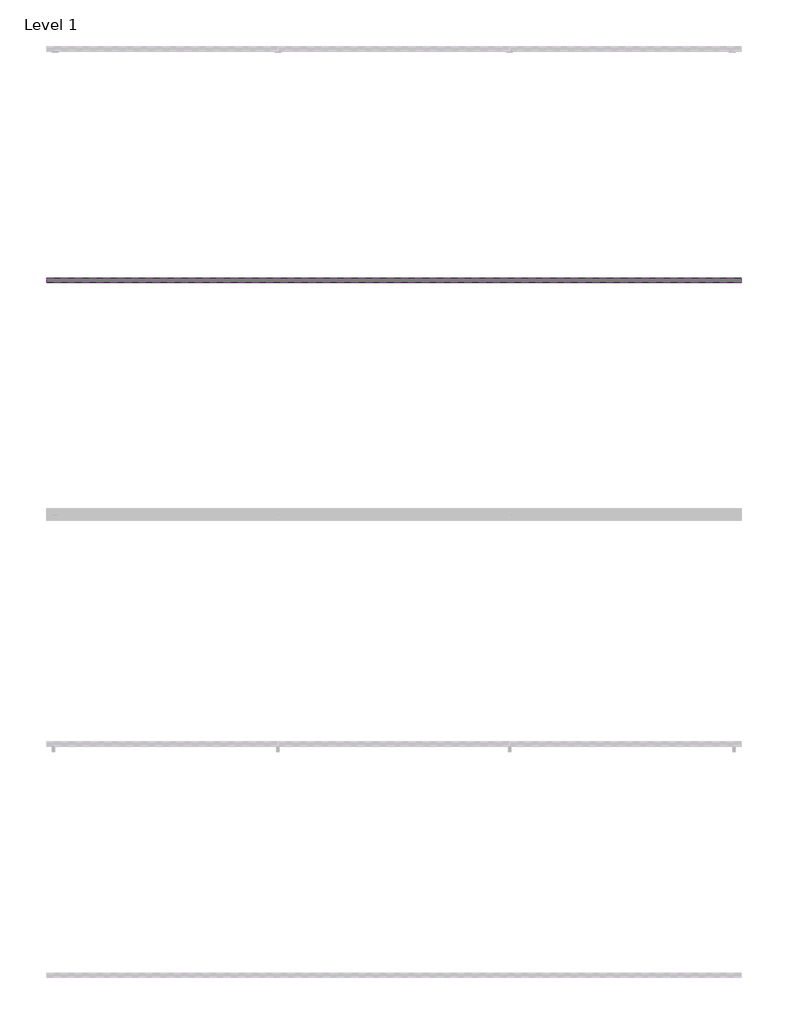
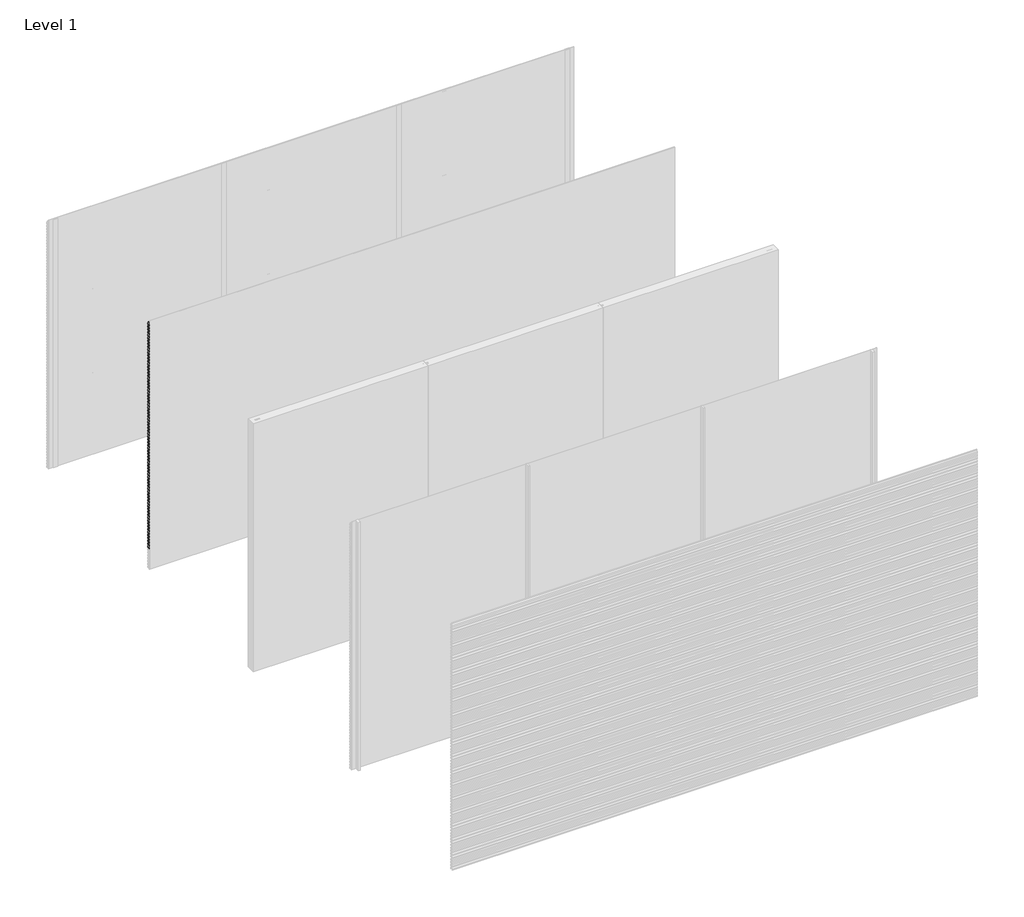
# One storey, part 14 of 17: 81 proxies.
"""IFC4 building model written with IfcOpenShell, lengths in millimetres."""

from ifc_helpers import new_model, si_unit, frame, origin, place, context, project, spatial, polyline, outline, extrude, element, save

model = new_model("IFC4")

# Units and contexts
model_context = context("Model", 3, world=origin())
ifc_project = project(units=[si_unit("LENGTHUNIT", "METRE", prefix="MILLI")], contexts=[model_context])

# Site, building, storey
site = spatial("IfcSite", under=ifc_project)
building = spatial("IfcBuilding", under=site)
storey = spatial("IfcBuildingStorey", under=building, Name="Level 1", Elevation=0.0)

# Proxies
placement = place(None, origin())
element("IfcBuildingElementProxy", 1, Name="Wall Sweeps", at=placement, inside=storey, context=model_context, shape_type="SweptSolid", body=[
    extrude(outline(polyline([(-1961.0, 2951.5), (-1961.0, 2936.5), (-1979.0, 2948.6411533), (-1997.0, 2936.5), (-1997.0, 2951.5), (-1980.0, 2962.9666448), (-1980.0, 2975.0), (-1978.0, 2975.0), (-1978.0, 2962.9666448), (-1961.0, 2951.5)])), frame((0.0, 0.0, 0.0), z_axis=(1.0, 0.0, 0.0), x_axis=(0.0, 1.0, 0.0)), (0.0, 0.0, 1.0), 6000.0),
])
element("IfcBuildingElementProxy", 2, Name="Wall Sweeps", at=placement, inside=storey, context=model_context, shape_type="SweptSolid", body=[
    extrude(outline(polyline([(-1961.0, 2916.5), (-1961.0, 2901.5), (-1979.0, 2913.6411533), (-1997.0, 2901.5), (-1997.0, 2916.5), (-1980.0, 2927.9666448), (-1980.0, 2940.0), (-1978.0, 2940.0), (-1978.0, 2927.9666448), (-1961.0, 2916.5)])), frame((0.0, 0.0, 0.0), z_axis=(1.0, 0.0, 0.0), x_axis=(0.0, 1.0, 0.0)), (0.0, 0.0, 1.0), 6000.0),
])
element("IfcBuildingElementProxy", 3, Name="Wall Sweeps", at=placement, inside=storey, context=model_context, shape_type="SweptSolid", body=[
    extrude(outline(polyline([(-1961.0, 2881.5), (-1961.0, 2866.5), (-1979.0, 2878.6411533), (-1997.0, 2866.5), (-1997.0, 2881.5), (-1980.0, 2892.9666448), (-1980.0, 2905.0), (-1978.0, 2905.0), (-1978.0, 2892.9666448), (-1961.0, 2881.5)])), frame((0.0, 0.0, 0.0), z_axis=(1.0, 0.0, 0.0), x_axis=(0.0, 1.0, 0.0)), (0.0, 0.0, 1.0), 6000.0),
])
element("IfcBuildingElementProxy", 4, Name="Wall Sweeps", at=placement, inside=storey, context=model_context, shape_type="SweptSolid", body=[
    extrude(outline(polyline([(-1961.0, 2846.5), (-1961.0, 2831.5), (-1979.0, 2843.6411533), (-1997.0, 2831.5), (-1997.0, 2846.5), (-1980.0, 2857.9666448), (-1980.0, 2870.0), (-1978.0, 2870.0), (-1978.0, 2857.9666448), (-1961.0, 2846.5)])), frame((0.0, 0.0, 0.0), z_axis=(1.0, 0.0, 0.0), x_axis=(0.0, 1.0, 0.0)), (0.0, 0.0, 1.0), 6000.0),
])
element("IfcBuildingElementProxy", 5, Name="Wall Sweeps", at=placement, inside=storey, context=model_context, shape_type="SweptSolid", body=[
    extrude(outline(polyline([(-1961.0, 2811.5), (-1961.0, 2796.5), (-1979.0, 2808.6411533), (-1997.0, 2796.5), (-1997.0, 2811.5), (-1980.0, 2822.9666448), (-1980.0, 2835.0), (-1978.0, 2835.0), (-1978.0, 2822.9666448), (-1961.0, 2811.5)])), frame((0.0, 0.0, 0.0), z_axis=(1.0, 0.0, 0.0), x_axis=(0.0, 1.0, 0.0)), (0.0, 0.0, 1.0), 6000.0),
])
element("IfcBuildingElementProxy", 6, Name="Wall Sweeps", at=placement, inside=storey, context=model_context, shape_type="SweptSolid", body=[
    extrude(outline(polyline([(-1961.0, 2776.5), (-1961.0, 2761.5), (-1979.0, 2773.6411533), (-1997.0, 2761.5), (-1997.0, 2776.5), (-1980.0, 2787.9666448), (-1980.0, 2800.0), (-1978.0, 2800.0), (-1978.0, 2787.9666448), (-1961.0, 2776.5)])), frame((0.0, 0.0, 0.0), z_axis=(1.0, 0.0, 0.0), x_axis=(0.0, 1.0, 0.0)), (0.0, 0.0, 1.0), 6000.0),
])
element("IfcBuildingElementProxy", 7, Name="Wall Sweeps", at=placement, inside=storey, context=model_context, shape_type="SweptSolid", body=[
    extrude(outline(polyline([(-1961.0, 2741.5), (-1961.0, 2726.5), (-1979.0, 2738.6411533), (-1997.0, 2726.5), (-1997.0, 2741.5), (-1980.0, 2752.9666448), (-1980.0, 2765.0), (-1978.0, 2765.0), (-1978.0, 2752.9666448), (-1961.0, 2741.5)])), frame((0.0, 0.0, 0.0), z_axis=(1.0, 0.0, 0.0), x_axis=(0.0, 1.0, 0.0)), (0.0, 0.0, 1.0), 6000.0),
])
element("IfcBuildingElementProxy", 8, Name="Wall Sweeps", at=placement, inside=storey, context=model_context, shape_type="SweptSolid", body=[
    extrude(outline(polyline([(-1961.0, 2706.5), (-1961.0, 2691.5), (-1979.0, 2703.6411533), (-1997.0, 2691.5), (-1997.0, 2706.5), (-1980.0, 2717.9666448), (-1980.0, 2730.0), (-1978.0, 2730.0), (-1978.0, 2717.9666448), (-1961.0, 2706.5)])), frame((0.0, 0.0, 0.0), z_axis=(1.0, 0.0, 0.0), x_axis=(0.0, 1.0, 0.0)), (0.0, 0.0, 1.0), 6000.0),
])
element("IfcBuildingElementProxy", 9, Name="Wall Sweeps", at=placement, inside=storey, context=model_context, shape_type="SweptSolid", body=[
    extrude(outline(polyline([(-1961.0, 2671.5), (-1961.0, 2656.5), (-1979.0, 2668.6411533), (-1997.0, 2656.5), (-1997.0, 2671.5), (-1980.0, 2682.9666448), (-1980.0, 2695.0), (-1978.0, 2695.0), (-1978.0, 2682.9666448), (-1961.0, 2671.5)])), frame((0.0, 0.0, 0.0), z_axis=(1.0, 0.0, 0.0), x_axis=(0.0, 1.0, 0.0)), (0.0, 0.0, 1.0), 6000.0),
])
element("IfcBuildingElementProxy", 10, Name="Wall Sweeps", at=placement, inside=storey, context=model_context, shape_type="SweptSolid", body=[
    extrude(outline(polyline([(-1961.0, 2636.5), (-1961.0, 2621.5), (-1979.0, 2633.6411533), (-1997.0, 2621.5), (-1997.0, 2636.5), (-1980.0, 2647.9666448), (-1980.0, 2660.0), (-1978.0, 2660.0), (-1978.0, 2647.9666448), (-1961.0, 2636.5)])), frame((0.0, 0.0, 0.0), z_axis=(1.0, 0.0, 0.0), x_axis=(0.0, 1.0, 0.0)), (0.0, 0.0, 1.0), 6000.0),
])
element("IfcBuildingElementProxy", 11, Name="Wall Sweeps", at=placement, inside=storey, context=model_context, shape_type="SweptSolid", body=[
    extrude(outline(polyline([(-1961.0, 2601.5), (-1961.0, 2586.5), (-1979.0, 2598.6411533), (-1997.0, 2586.5), (-1997.0, 2601.5), (-1980.0, 2612.9666448), (-1980.0, 2625.0), (-1978.0, 2625.0), (-1978.0, 2612.9666448), (-1961.0, 2601.5)])), frame((0.0, 0.0, 0.0), z_axis=(1.0, 0.0, 0.0), x_axis=(0.0, 1.0, 0.0)), (0.0, 0.0, 1.0), 6000.0),
])
element("IfcBuildingElementProxy", 12, Name="Wall Sweeps", at=placement, inside=storey, context=model_context, shape_type="SweptSolid", body=[
    extrude(outline(polyline([(-1961.0, 2566.5), (-1961.0, 2551.5), (-1979.0, 2563.6411533), (-1997.0, 2551.5), (-1997.0, 2566.5), (-1980.0, 2577.9666448), (-1980.0, 2590.0), (-1978.0, 2590.0), (-1978.0, 2577.9666448), (-1961.0, 2566.5)])), frame((0.0, 0.0, 0.0), z_axis=(1.0, 0.0, 0.0), x_axis=(0.0, 1.0, 0.0)), (0.0, 0.0, 1.0), 6000.0),
])
element("IfcBuildingElementProxy", 13, Name="Wall Sweeps", at=placement, inside=storey, context=model_context, shape_type="SweptSolid", body=[
    extrude(outline(polyline([(-1961.0, 2531.5), (-1961.0, 2516.5), (-1979.0, 2528.6411533), (-1997.0, 2516.5), (-1997.0, 2531.5), (-1980.0, 2542.9666448), (-1980.0, 2555.0), (-1978.0, 2555.0), (-1978.0, 2542.9666448), (-1961.0, 2531.5)])), frame((0.0, 0.0, 0.0), z_axis=(1.0, 0.0, 0.0), x_axis=(0.0, 1.0, 0.0)), (0.0, 0.0, 1.0), 6000.0),
])
element("IfcBuildingElementProxy", 14, Name="Wall Sweeps", at=placement, inside=storey, context=model_context, shape_type="SweptSolid", body=[
    extrude(outline(polyline([(-1961.0, 2496.5), (-1961.0, 2481.5), (-1979.0, 2493.6411533), (-1997.0, 2481.5), (-1997.0, 2496.5), (-1980.0, 2507.9666448), (-1980.0, 2520.0), (-1978.0, 2520.0), (-1978.0, 2507.9666448), (-1961.0, 2496.5)])), frame((0.0, 0.0, 0.0), z_axis=(1.0, 0.0, 0.0), x_axis=(0.0, 1.0, 0.0)), (0.0, 0.0, 1.0), 6000.0),
])
element("IfcBuildingElementProxy", 15, Name="Wall Sweeps", at=placement, inside=storey, context=model_context, shape_type="SweptSolid", body=[
    extrude(outline(polyline([(-1961.0, 2461.5), (-1961.0, 2446.5), (-1979.0, 2458.6411533), (-1997.0, 2446.5), (-1997.0, 2461.5), (-1980.0, 2472.9666448), (-1980.0, 2485.0), (-1978.0, 2485.0), (-1978.0, 2472.9666448), (-1961.0, 2461.5)])), frame((0.0, 0.0, 0.0), z_axis=(1.0, 0.0, 0.0), x_axis=(0.0, 1.0, 0.0)), (0.0, 0.0, 1.0), 6000.0),
])
element("IfcBuildingElementProxy", 16, Name="Wall Sweeps", at=placement, inside=storey, context=model_context, shape_type="SweptSolid", body=[
    extrude(outline(polyline([(-1961.0, 2426.5), (-1961.0, 2411.5), (-1979.0, 2423.6411533), (-1997.0, 2411.5), (-1997.0, 2426.5), (-1980.0, 2437.9666448), (-1980.0, 2450.0), (-1978.0, 2450.0), (-1978.0, 2437.9666448), (-1961.0, 2426.5)])), frame((0.0, 0.0, 0.0), z_axis=(1.0, 0.0, 0.0), x_axis=(0.0, 1.0, 0.0)), (0.0, 0.0, 1.0), 6000.0),
])
element("IfcBuildingElementProxy", 17, Name="Wall Sweeps", at=placement, inside=storey, context=model_context, shape_type="SweptSolid", body=[
    extrude(outline(polyline([(-1961.0, 2391.5), (-1961.0, 2376.5), (-1979.0, 2388.6411533), (-1997.0, 2376.5), (-1997.0, 2391.5), (-1980.0, 2402.9666448), (-1980.0, 2415.0), (-1978.0, 2415.0), (-1978.0, 2402.9666448), (-1961.0, 2391.5)])), frame((0.0, 0.0, 0.0), z_axis=(1.0, 0.0, 0.0), x_axis=(0.0, 1.0, 0.0)), (0.0, 0.0, 1.0), 6000.0),
])
element("IfcBuildingElementProxy", 18, Name="Wall Sweeps", at=placement, inside=storey, context=model_context, shape_type="SweptSolid", body=[
    extrude(outline(polyline([(-1961.0, 2356.5), (-1961.0, 2341.5), (-1979.0, 2353.6411533), (-1997.0, 2341.5), (-1997.0, 2356.5), (-1980.0, 2367.9666448), (-1980.0, 2380.0), (-1978.0, 2380.0), (-1978.0, 2367.9666448), (-1961.0, 2356.5)])), frame((0.0, 0.0, 0.0), z_axis=(1.0, 0.0, 0.0), x_axis=(0.0, 1.0, 0.0)), (0.0, 0.0, 1.0), 6000.0),
])
element("IfcBuildingElementProxy", 19, Name="Wall Sweeps", at=placement, inside=storey, context=model_context, shape_type="SweptSolid", body=[
    extrude(outline(polyline([(-1961.0, 2321.5), (-1961.0, 2306.5), (-1979.0, 2318.6411533), (-1997.0, 2306.5), (-1997.0, 2321.5), (-1980.0, 2332.9666448), (-1980.0, 2345.0), (-1978.0, 2345.0), (-1978.0, 2332.9666448), (-1961.0, 2321.5)])), frame((0.0, 0.0, 0.0), z_axis=(1.0, 0.0, 0.0), x_axis=(0.0, 1.0, 0.0)), (0.0, 0.0, 1.0), 6000.0),
])
element("IfcBuildingElementProxy", 20, Name="Wall Sweeps", at=placement, inside=storey, context=model_context, shape_type="SweptSolid", body=[
    extrude(outline(polyline([(-1961.0, 2286.5), (-1961.0, 2271.5), (-1979.0, 2283.6411533), (-1997.0, 2271.5), (-1997.0, 2286.5), (-1980.0, 2297.9666448), (-1980.0, 2310.0), (-1978.0, 2310.0), (-1978.0, 2297.9666448), (-1961.0, 2286.5)])), frame((0.0, 0.0, 0.0), z_axis=(1.0, 0.0, 0.0), x_axis=(0.0, 1.0, 0.0)), (0.0, 0.0, 1.0), 6000.0),
])
element("IfcBuildingElementProxy", 21, Name="Wall Sweeps", at=placement, inside=storey, context=model_context, shape_type="SweptSolid", body=[
    extrude(outline(polyline([(-1961.0, 2251.5), (-1961.0, 2236.5), (-1979.0, 2248.6411533), (-1997.0, 2236.5), (-1997.0, 2251.5), (-1980.0, 2262.9666448), (-1980.0, 2275.0), (-1978.0, 2275.0), (-1978.0, 2262.9666448), (-1961.0, 2251.5)])), frame((0.0, 0.0, 0.0), z_axis=(1.0, 0.0, 0.0), x_axis=(0.0, 1.0, 0.0)), (0.0, 0.0, 1.0), 6000.0),
])
element("IfcBuildingElementProxy", 22, Name="Wall Sweeps", at=placement, inside=storey, context=model_context, shape_type="SweptSolid", body=[
    extrude(outline(polyline([(-1961.0, 2216.5), (-1961.0, 2201.5), (-1979.0, 2213.6411533), (-1997.0, 2201.5), (-1997.0, 2216.5), (-1980.0, 2227.9666448), (-1980.0, 2240.0), (-1978.0, 2240.0), (-1978.0, 2227.9666448), (-1961.0, 2216.5)])), frame((0.0, 0.0, 0.0), z_axis=(1.0, 0.0, 0.0), x_axis=(0.0, 1.0, 0.0)), (0.0, 0.0, 1.0), 6000.0),
])
element("IfcBuildingElementProxy", 23, Name="Wall Sweeps", at=placement, inside=storey, context=model_context, shape_type="SweptSolid", body=[
    extrude(outline(polyline([(-1961.0, 2181.5), (-1961.0, 2166.5), (-1979.0, 2178.6411533), (-1997.0, 2166.5), (-1997.0, 2181.5), (-1980.0, 2192.9666448), (-1980.0, 2205.0), (-1978.0, 2205.0), (-1978.0, 2192.9666448), (-1961.0, 2181.5)])), frame((0.0, 0.0, 0.0), z_axis=(1.0, 0.0, 0.0), x_axis=(0.0, 1.0, 0.0)), (0.0, 0.0, 1.0), 6000.0),
])
element("IfcBuildingElementProxy", 24, Name="Wall Sweeps", at=placement, inside=storey, context=model_context, shape_type="SweptSolid", body=[
    extrude(outline(polyline([(-1961.0, 2146.5), (-1961.0, 2131.5), (-1979.0, 2143.6411533), (-1997.0, 2131.5), (-1997.0, 2146.5), (-1980.0, 2157.9666448), (-1980.0, 2170.0), (-1978.0, 2170.0), (-1978.0, 2157.9666448), (-1961.0, 2146.5)])), frame((0.0, 0.0, 0.0), z_axis=(1.0, 0.0, 0.0), x_axis=(0.0, 1.0, 0.0)), (0.0, 0.0, 1.0), 6000.0),
])
element("IfcBuildingElementProxy", 25, Name="Wall Sweeps", at=placement, inside=storey, context=model_context, shape_type="SweptSolid", body=[
    extrude(outline(polyline([(-1961.0, 2111.5), (-1961.0, 2096.5), (-1979.0, 2108.6411533), (-1997.0, 2096.5), (-1997.0, 2111.5), (-1980.0, 2122.9666448), (-1980.0, 2135.0), (-1978.0, 2135.0), (-1978.0, 2122.9666448), (-1961.0, 2111.5)])), frame((0.0, 0.0, 0.0), z_axis=(1.0, 0.0, 0.0), x_axis=(0.0, 1.0, 0.0)), (0.0, 0.0, 1.0), 6000.0),
])
element("IfcBuildingElementProxy", 26, Name="Wall Sweeps", at=placement, inside=storey, context=model_context, shape_type="SweptSolid", body=[
    extrude(outline(polyline([(-1961.0, 2076.5), (-1961.0, 2061.5), (-1979.0, 2073.6411533), (-1997.0, 2061.5), (-1997.0, 2076.5), (-1980.0, 2087.9666448), (-1980.0, 2100.0), (-1978.0, 2100.0), (-1978.0, 2087.9666448), (-1961.0, 2076.5)])), frame((0.0, 0.0, 0.0), z_axis=(1.0, 0.0, 0.0), x_axis=(0.0, 1.0, 0.0)), (0.0, 0.0, 1.0), 6000.0),
])
element("IfcBuildingElementProxy", 27, Name="Wall Sweeps", at=placement, inside=storey, context=model_context, shape_type="SweptSolid", body=[
    extrude(outline(polyline([(-1961.0, 2041.5), (-1961.0, 2026.5), (-1979.0, 2038.6411533), (-1997.0, 2026.5), (-1997.0, 2041.5), (-1980.0, 2052.9666448), (-1980.0, 2065.0), (-1978.0, 2065.0), (-1978.0, 2052.9666448), (-1961.0, 2041.5)])), frame((0.0, 0.0, 0.0), z_axis=(1.0, 0.0, 0.0), x_axis=(0.0, 1.0, 0.0)), (0.0, 0.0, 1.0), 6000.0),
])
element("IfcBuildingElementProxy", 28, Name="Wall Sweeps", at=placement, inside=storey, context=model_context, shape_type="SweptSolid", body=[
    extrude(outline(polyline([(-1961.0, 2006.5), (-1961.0, 1991.5), (-1979.0, 2003.6411533), (-1997.0, 1991.5), (-1997.0, 2006.5), (-1980.0, 2017.9666448), (-1980.0, 2030.0), (-1978.0, 2030.0), (-1978.0, 2017.9666448), (-1961.0, 2006.5)])), frame((0.0, 0.0, 0.0), z_axis=(1.0, 0.0, 0.0), x_axis=(0.0, 1.0, 0.0)), (0.0, 0.0, 1.0), 6000.0),
])
element("IfcBuildingElementProxy", 29, Name="Wall Sweeps", at=placement, inside=storey, context=model_context, shape_type="SweptSolid", body=[
    extrude(outline(polyline([(-1961.0, 1971.5), (-1961.0, 1956.5), (-1979.0, 1968.6411533), (-1997.0, 1956.5), (-1997.0, 1971.5), (-1980.0, 1982.9666448), (-1980.0, 1995.0), (-1978.0, 1995.0), (-1978.0, 1982.9666448), (-1961.0, 1971.5)])), frame((0.0, 0.0, 0.0), z_axis=(1.0, 0.0, 0.0), x_axis=(0.0, 1.0, 0.0)), (0.0, 0.0, 1.0), 6000.0),
])
element("IfcBuildingElementProxy", 30, Name="Wall Sweeps", at=placement, inside=storey, context=model_context, shape_type="SweptSolid", body=[
    extrude(outline(polyline([(-1961.0, 1936.5), (-1961.0, 1921.5), (-1979.0, 1933.6411533), (-1997.0, 1921.5), (-1997.0, 1936.5), (-1980.0, 1947.9666448), (-1980.0, 1960.0), (-1978.0, 1960.0), (-1978.0, 1947.9666448), (-1961.0, 1936.5)])), frame((0.0, 0.0, 0.0), z_axis=(1.0, 0.0, 0.0), x_axis=(0.0, 1.0, 0.0)), (0.0, 0.0, 1.0), 6000.0),
])
element("IfcBuildingElementProxy", 31, Name="Wall Sweeps", at=placement, inside=storey, context=model_context, shape_type="SweptSolid", body=[
    extrude(outline(polyline([(-1961.0, 1901.5), (-1961.0, 1886.5), (-1979.0, 1898.6411533), (-1997.0, 1886.5), (-1997.0, 1901.5), (-1980.0, 1912.9666448), (-1980.0, 1925.0), (-1978.0, 1925.0), (-1978.0, 1912.9666448), (-1961.0, 1901.5)])), frame((0.0, 0.0, 0.0), z_axis=(1.0, 0.0, 0.0), x_axis=(0.0, 1.0, 0.0)), (0.0, 0.0, 1.0), 6000.0),
])
element("IfcBuildingElementProxy", 32, Name="Wall Sweeps", at=placement, inside=storey, context=model_context, shape_type="SweptSolid", body=[
    extrude(outline(polyline([(-1961.0, 1866.5), (-1961.0, 1851.5), (-1979.0, 1863.6411533), (-1997.0, 1851.5), (-1997.0, 1866.5), (-1980.0, 1877.9666448), (-1980.0, 1890.0), (-1978.0, 1890.0), (-1978.0, 1877.9666448), (-1961.0, 1866.5)])), frame((0.0, 0.0, 0.0), z_axis=(1.0, 0.0, 0.0), x_axis=(0.0, 1.0, 0.0)), (0.0, 0.0, 1.0), 6000.0),
])
element("IfcBuildingElementProxy", 33, Name="Wall Sweeps", at=placement, inside=storey, context=model_context, shape_type="SweptSolid", body=[
    extrude(outline(polyline([(-1961.0, 1831.5), (-1961.0, 1816.5), (-1979.0, 1828.6411533), (-1997.0, 1816.5), (-1997.0, 1831.5), (-1980.0, 1842.9666448), (-1980.0, 1855.0), (-1978.0, 1855.0), (-1978.0, 1842.9666448), (-1961.0, 1831.5)])), frame((0.0, 0.0, 0.0), z_axis=(1.0, 0.0, 0.0), x_axis=(0.0, 1.0, 0.0)), (0.0, 0.0, 1.0), 6000.0),
])
element("IfcBuildingElementProxy", 34, Name="Wall Sweeps", at=placement, inside=storey, context=model_context, shape_type="SweptSolid", body=[
    extrude(outline(polyline([(-1961.0, 1796.5), (-1961.0, 1781.5), (-1979.0, 1793.6411533), (-1997.0, 1781.5), (-1997.0, 1796.5), (-1980.0, 1807.9666448), (-1980.0, 1820.0), (-1978.0, 1820.0), (-1978.0, 1807.9666448), (-1961.0, 1796.5)])), frame((0.0, 0.0, 0.0), z_axis=(1.0, 0.0, 0.0), x_axis=(0.0, 1.0, 0.0)), (0.0, 0.0, 1.0), 6000.0),
])
element("IfcBuildingElementProxy", 35, Name="Wall Sweeps", at=placement, inside=storey, context=model_context, shape_type="SweptSolid", body=[
    extrude(outline(polyline([(-1961.0, 1761.5), (-1961.0, 1746.5), (-1979.0, 1758.6411533), (-1997.0, 1746.5), (-1997.0, 1761.5), (-1980.0, 1772.9666448), (-1980.0, 1785.0), (-1978.0, 1785.0), (-1978.0, 1772.9666448), (-1961.0, 1761.5)])), frame((0.0, 0.0, 0.0), z_axis=(1.0, 0.0, 0.0), x_axis=(0.0, 1.0, 0.0)), (0.0, 0.0, 1.0), 6000.0),
])
element("IfcBuildingElementProxy", 36, Name="Wall Sweeps", at=placement, inside=storey, context=model_context, shape_type="SweptSolid", body=[
    extrude(outline(polyline([(-1961.0, 1726.5), (-1961.0, 1711.5), (-1979.0, 1723.6411533), (-1997.0, 1711.5), (-1997.0, 1726.5), (-1980.0, 1737.9666448), (-1980.0, 1750.0), (-1978.0, 1750.0), (-1978.0, 1737.9666448), (-1961.0, 1726.5)])), frame((0.0, 0.0, 0.0), z_axis=(1.0, 0.0, 0.0), x_axis=(0.0, 1.0, 0.0)), (0.0, 0.0, 1.0), 6000.0),
])
element("IfcBuildingElementProxy", 37, Name="Wall Sweeps", at=placement, inside=storey, context=model_context, shape_type="SweptSolid", body=[
    extrude(outline(polyline([(-1961.0, 1691.5), (-1961.0, 1676.5), (-1979.0, 1688.6411533), (-1997.0, 1676.5), (-1997.0, 1691.5), (-1980.0, 1702.9666448), (-1980.0, 1715.0), (-1978.0, 1715.0), (-1978.0, 1702.9666448), (-1961.0, 1691.5)])), frame((0.0, 0.0, 0.0), z_axis=(1.0, 0.0, 0.0), x_axis=(0.0, 1.0, 0.0)), (0.0, 0.0, 1.0), 6000.0),
])
element("IfcBuildingElementProxy", 38, Name="Wall Sweeps", at=placement, inside=storey, context=model_context, shape_type="SweptSolid", body=[
    extrude(outline(polyline([(-1961.0, 1656.5), (-1961.0, 1641.5), (-1979.0, 1653.6411533), (-1997.0, 1641.5), (-1997.0, 1656.5), (-1980.0, 1667.9666448), (-1980.0, 1680.0), (-1978.0, 1680.0), (-1978.0, 1667.9666448), (-1961.0, 1656.5)])), frame((0.0, 0.0, 0.0), z_axis=(1.0, 0.0, 0.0), x_axis=(0.0, 1.0, 0.0)), (0.0, 0.0, 1.0), 6000.0),
])
element("IfcBuildingElementProxy", 39, Name="Wall Sweeps", at=placement, inside=storey, context=model_context, shape_type="SweptSolid", body=[
    extrude(outline(polyline([(-1961.0, 1621.5), (-1961.0, 1606.5), (-1979.0, 1618.6411533), (-1997.0, 1606.5), (-1997.0, 1621.5), (-1980.0, 1632.9666448), (-1980.0, 1645.0), (-1978.0, 1645.0), (-1978.0, 1632.9666448), (-1961.0, 1621.5)])), frame((0.0, 0.0, 0.0), z_axis=(1.0, 0.0, 0.0), x_axis=(0.0, 1.0, 0.0)), (0.0, 0.0, 1.0), 6000.0),
])
element("IfcBuildingElementProxy", 40, Name="Wall Sweeps", at=placement, inside=storey, context=model_context, shape_type="SweptSolid", body=[
    extrude(outline(polyline([(-1961.0, 1586.5), (-1961.0, 1571.5), (-1979.0, 1583.6411533), (-1997.0, 1571.5), (-1997.0, 1586.5), (-1980.0, 1597.9666448), (-1980.0, 1610.0), (-1978.0, 1610.0), (-1978.0, 1597.9666448), (-1961.0, 1586.5)])), frame((0.0, 0.0, 0.0), z_axis=(1.0, 0.0, 0.0), x_axis=(0.0, 1.0, 0.0)), (0.0, 0.0, 1.0), 6000.0),
])
element("IfcBuildingElementProxy", 41, Name="Wall Sweeps", at=placement, inside=storey, context=model_context, shape_type="SweptSolid", body=[
    extrude(outline(polyline([(-1961.0, 1551.5), (-1961.0, 1536.5), (-1979.0, 1548.6411533), (-1997.0, 1536.5), (-1997.0, 1551.5), (-1980.0, 1562.9666448), (-1980.0, 1575.0), (-1978.0, 1575.0), (-1978.0, 1562.9666448), (-1961.0, 1551.5)])), frame((0.0, 0.0, 0.0), z_axis=(1.0, 0.0, 0.0), x_axis=(0.0, 1.0, 0.0)), (0.0, 0.0, 1.0), 6000.0),
])
element("IfcBuildingElementProxy", 42, Name="Wall Sweeps", at=placement, inside=storey, context=model_context, shape_type="SweptSolid", body=[
    extrude(outline(polyline([(-1961.0, 1516.5), (-1961.0, 1501.5), (-1979.0, 1513.6411533), (-1997.0, 1501.5), (-1997.0, 1516.5), (-1980.0, 1527.9666448), (-1980.0, 1540.0), (-1978.0, 1540.0), (-1978.0, 1527.9666448), (-1961.0, 1516.5)])), frame((0.0, 0.0, 0.0), z_axis=(1.0, 0.0, 0.0), x_axis=(0.0, 1.0, 0.0)), (0.0, 0.0, 1.0), 6000.0),
])
element("IfcBuildingElementProxy", 43, Name="Wall Sweeps", at=placement, inside=storey, context=model_context, shape_type="SweptSolid", body=[
    extrude(outline(polyline([(-1961.0, 1481.5), (-1961.0, 1466.5), (-1979.0, 1478.6411533), (-1997.0, 1466.5), (-1997.0, 1481.5), (-1980.0, 1492.9666448), (-1980.0, 1505.0), (-1978.0, 1505.0), (-1978.0, 1492.9666448), (-1961.0, 1481.5)])), frame((0.0, 0.0, 0.0), z_axis=(1.0, 0.0, 0.0), x_axis=(0.0, 1.0, 0.0)), (0.0, 0.0, 1.0), 6000.0),
])
element("IfcBuildingElementProxy", 44, Name="Wall Sweeps", at=placement, inside=storey, context=model_context, shape_type="SweptSolid", body=[
    extrude(outline(polyline([(-1961.0, 1446.5), (-1961.0, 1431.5), (-1979.0, 1443.6411533), (-1997.0, 1431.5), (-1997.0, 1446.5), (-1980.0, 1457.9666448), (-1980.0, 1470.0), (-1978.0, 1470.0), (-1978.0, 1457.9666448), (-1961.0, 1446.5)])), frame((0.0, 0.0, 0.0), z_axis=(1.0, 0.0, 0.0), x_axis=(0.0, 1.0, 0.0)), (0.0, 0.0, 1.0), 6000.0),
])
element("IfcBuildingElementProxy", 45, Name="Wall Sweeps", at=placement, inside=storey, context=model_context, shape_type="SweptSolid", body=[
    extrude(outline(polyline([(-1961.0, 1411.5), (-1961.0, 1396.5), (-1979.0, 1408.6411533), (-1997.0, 1396.5), (-1997.0, 1411.5), (-1980.0, 1422.9666448), (-1980.0, 1435.0), (-1978.0, 1435.0), (-1978.0, 1422.9666448), (-1961.0, 1411.5)])), frame((0.0, 0.0, 0.0), z_axis=(1.0, 0.0, 0.0), x_axis=(0.0, 1.0, 0.0)), (0.0, 0.0, 1.0), 6000.0),
])
element("IfcBuildingElementProxy", 46, Name="Wall Sweeps", at=placement, inside=storey, context=model_context, shape_type="SweptSolid", body=[
    extrude(outline(polyline([(-1961.0, 1376.5), (-1961.0, 1361.5), (-1979.0, 1373.6411533), (-1997.0, 1361.5), (-1997.0, 1376.5), (-1980.0, 1387.9666448), (-1980.0, 1400.0), (-1978.0, 1400.0), (-1978.0, 1387.9666448), (-1961.0, 1376.5)])), frame((0.0, 0.0, 0.0), z_axis=(1.0, 0.0, 0.0), x_axis=(0.0, 1.0, 0.0)), (0.0, 0.0, 1.0), 6000.0),
])
element("IfcBuildingElementProxy", 47, Name="Wall Sweeps", at=placement, inside=storey, context=model_context, shape_type="SweptSolid", body=[
    extrude(outline(polyline([(-1961.0, 1341.5), (-1961.0, 1326.5), (-1979.0, 1338.6411533), (-1997.0, 1326.5), (-1997.0, 1341.5), (-1980.0, 1352.9666448), (-1980.0, 1365.0), (-1978.0, 1365.0), (-1978.0, 1352.9666448), (-1961.0, 1341.5)])), frame((0.0, 0.0, 0.0), z_axis=(1.0, 0.0, 0.0), x_axis=(0.0, 1.0, 0.0)), (0.0, 0.0, 1.0), 6000.0),
])
element("IfcBuildingElementProxy", 48, Name="Wall Sweeps", at=placement, inside=storey, context=model_context, shape_type="SweptSolid", body=[
    extrude(outline(polyline([(-1961.0, 1306.5), (-1961.0, 1291.5), (-1979.0, 1303.6411533), (-1997.0, 1291.5), (-1997.0, 1306.5), (-1980.0, 1317.9666448), (-1980.0, 1330.0), (-1978.0, 1330.0), (-1978.0, 1317.9666448), (-1961.0, 1306.5)])), frame((0.0, 0.0, 0.0), z_axis=(1.0, 0.0, 0.0), x_axis=(0.0, 1.0, 0.0)), (0.0, 0.0, 1.0), 6000.0),
])
element("IfcBuildingElementProxy", 49, Name="Wall Sweeps", at=placement, inside=storey, context=model_context, shape_type="SweptSolid", body=[
    extrude(outline(polyline([(-1961.0, 1271.5), (-1961.0, 1256.5), (-1979.0, 1268.6411533), (-1997.0, 1256.5), (-1997.0, 1271.5), (-1980.0, 1282.9666448), (-1980.0, 1295.0), (-1978.0, 1295.0), (-1978.0, 1282.9666448), (-1961.0, 1271.5)])), frame((0.0, 0.0, 0.0), z_axis=(1.0, 0.0, 0.0), x_axis=(0.0, 1.0, 0.0)), (0.0, 0.0, 1.0), 6000.0),
])
element("IfcBuildingElementProxy", 50, Name="Wall Sweeps", at=placement, inside=storey, context=model_context, shape_type="SweptSolid", body=[
    extrude(outline(polyline([(-1961.0, 1236.5), (-1961.0, 1221.5), (-1979.0, 1233.6411533), (-1997.0, 1221.5), (-1997.0, 1236.5), (-1980.0, 1247.9666448), (-1980.0, 1260.0), (-1978.0, 1260.0), (-1978.0, 1247.9666448), (-1961.0, 1236.5)])), frame((0.0, 0.0, 0.0), z_axis=(1.0, 0.0, 0.0), x_axis=(0.0, 1.0, 0.0)), (0.0, 0.0, 1.0), 6000.0),
])
element("IfcBuildingElementProxy", 51, Name="Wall Sweeps", at=placement, inside=storey, context=model_context, shape_type="SweptSolid", body=[
    extrude(outline(polyline([(-1961.0, 1201.5), (-1961.0, 1186.5), (-1979.0, 1198.6411533), (-1997.0, 1186.5), (-1997.0, 1201.5), (-1980.0, 1212.9666448), (-1980.0, 1225.0), (-1978.0, 1225.0), (-1978.0, 1212.9666448), (-1961.0, 1201.5)])), frame((0.0, 0.0, 0.0), z_axis=(1.0, 0.0, 0.0), x_axis=(0.0, 1.0, 0.0)), (0.0, 0.0, 1.0), 6000.0),
])
element("IfcBuildingElementProxy", 52, Name="Wall Sweeps", at=placement, inside=storey, context=model_context, shape_type="SweptSolid", body=[
    extrude(outline(polyline([(-1961.0, 1166.5), (-1961.0, 1151.5), (-1979.0, 1163.6411533), (-1997.0, 1151.5), (-1997.0, 1166.5), (-1980.0, 1177.9666448), (-1980.0, 1190.0), (-1978.0, 1190.0), (-1978.0, 1177.9666448), (-1961.0, 1166.5)])), frame((0.0, 0.0, 0.0), z_axis=(1.0, 0.0, 0.0), x_axis=(0.0, 1.0, 0.0)), (0.0, 0.0, 1.0), 6000.0),
])
element("IfcBuildingElementProxy", 53, Name="Wall Sweeps", at=placement, inside=storey, context=model_context, shape_type="SweptSolid", body=[
    extrude(outline(polyline([(-1961.0, 1131.5), (-1961.0, 1116.5), (-1979.0, 1128.6411533), (-1997.0, 1116.5), (-1997.0, 1131.5), (-1980.0, 1142.9666448), (-1980.0, 1155.0), (-1978.0, 1155.0), (-1978.0, 1142.9666448), (-1961.0, 1131.5)])), frame((0.0, 0.0, 0.0), z_axis=(1.0, 0.0, 0.0), x_axis=(0.0, 1.0, 0.0)), (0.0, 0.0, 1.0), 6000.0),
])
element("IfcBuildingElementProxy", 54, Name="Wall Sweeps", at=placement, inside=storey, context=model_context, shape_type="SweptSolid", body=[
    extrude(outline(polyline([(-1961.0, 1096.5), (-1961.0, 1081.5), (-1979.0, 1093.6411533), (-1997.0, 1081.5), (-1997.0, 1096.5), (-1980.0, 1107.9666448), (-1980.0, 1120.0), (-1978.0, 1120.0), (-1978.0, 1107.9666448), (-1961.0, 1096.5)])), frame((0.0, 0.0, 0.0), z_axis=(1.0, 0.0, 0.0), x_axis=(0.0, 1.0, 0.0)), (0.0, 0.0, 1.0), 6000.0),
])
element("IfcBuildingElementProxy", 55, Name="Wall Sweeps", at=placement, inside=storey, context=model_context, shape_type="SweptSolid", body=[
    extrude(outline(polyline([(-1961.0, 1061.5), (-1961.0, 1046.5), (-1979.0, 1058.6411533), (-1997.0, 1046.5), (-1997.0, 1061.5), (-1980.0, 1072.9666448), (-1980.0, 1085.0), (-1978.0, 1085.0), (-1978.0, 1072.9666448), (-1961.0, 1061.5)])), frame((0.0, 0.0, 0.0), z_axis=(1.0, 0.0, 0.0), x_axis=(0.0, 1.0, 0.0)), (0.0, 0.0, 1.0), 6000.0),
])
element("IfcBuildingElementProxy", 56, Name="Wall Sweeps", at=placement, inside=storey, context=model_context, shape_type="SweptSolid", body=[
    extrude(outline(polyline([(-1961.0, 1026.5), (-1961.0, 1011.5), (-1979.0, 1023.6411533), (-1997.0, 1011.5), (-1997.0, 1026.5), (-1980.0, 1037.9666448), (-1980.0, 1050.0), (-1978.0, 1050.0), (-1978.0, 1037.9666448), (-1961.0, 1026.5)])), frame((0.0, 0.0, 0.0), z_axis=(1.0, 0.0, 0.0), x_axis=(0.0, 1.0, 0.0)), (0.0, 0.0, 1.0), 6000.0),
])
element("IfcBuildingElementProxy", 57, Name="Wall Sweeps", at=placement, inside=storey, context=model_context, shape_type="SweptSolid", body=[
    extrude(outline(polyline([(-1961.0, 991.5), (-1961.0, 976.5), (-1979.0, 988.6411533), (-1997.0, 976.5), (-1997.0, 991.5), (-1980.0, 1002.9666448), (-1980.0, 1015.0), (-1978.0, 1015.0), (-1978.0, 1002.9666448), (-1961.0, 991.5)])), frame((0.0, 0.0, 0.0), z_axis=(1.0, 0.0, 0.0), x_axis=(0.0, 1.0, 0.0)), (0.0, 0.0, 1.0), 6000.0),
])
element("IfcBuildingElementProxy", 58, Name="Wall Sweeps", at=placement, inside=storey, context=model_context, shape_type="SweptSolid", body=[
    extrude(outline(polyline([(-1961.0, 956.5), (-1961.0, 941.5), (-1979.0, 953.6411533), (-1997.0, 941.5), (-1997.0, 956.5), (-1980.0, 967.9666448), (-1980.0, 980.0), (-1978.0, 980.0), (-1978.0, 967.9666448), (-1961.0, 956.5)])), frame((0.0, 0.0, 0.0), z_axis=(1.0, 0.0, 0.0), x_axis=(0.0, 1.0, 0.0)), (0.0, 0.0, 1.0), 6000.0),
])
element("IfcBuildingElementProxy", 59, Name="Wall Sweeps", at=placement, inside=storey, context=model_context, shape_type="SweptSolid", body=[
    extrude(outline(polyline([(-1961.0, 921.5), (-1961.0, 906.5), (-1979.0, 918.6411533), (-1997.0, 906.5), (-1997.0, 921.5), (-1980.0, 932.9666448), (-1980.0, 945.0), (-1978.0, 945.0), (-1978.0, 932.9666448), (-1961.0, 921.5)])), frame((0.0, 0.0, 0.0), z_axis=(1.0, 0.0, 0.0), x_axis=(0.0, 1.0, 0.0)), (0.0, 0.0, 1.0), 6000.0),
])
element("IfcBuildingElementProxy", 60, Name="Wall Sweeps", at=placement, inside=storey, context=model_context, shape_type="SweptSolid", body=[
    extrude(outline(polyline([(-1961.0, 886.5), (-1961.0, 871.5), (-1979.0, 883.6411533), (-1997.0, 871.5), (-1997.0, 886.5), (-1980.0, 897.9666448), (-1980.0, 910.0), (-1978.0, 910.0), (-1978.0, 897.9666448), (-1961.0, 886.5)])), frame((0.0, 0.0, 0.0), z_axis=(1.0, 0.0, 0.0), x_axis=(0.0, 1.0, 0.0)), (0.0, 0.0, 1.0), 6000.0),
])
element("IfcBuildingElementProxy", 61, Name="Wall Sweeps", at=placement, inside=storey, context=model_context, shape_type="SweptSolid", body=[
    extrude(outline(polyline([(-1961.0, 851.5), (-1961.0, 836.5), (-1979.0, 848.6411533), (-1997.0, 836.5), (-1997.0, 851.5), (-1980.0, 862.9666448), (-1980.0, 875.0), (-1978.0, 875.0), (-1978.0, 862.9666448), (-1961.0, 851.5)])), frame((0.0, 0.0, 0.0), z_axis=(1.0, 0.0, 0.0), x_axis=(0.0, 1.0, 0.0)), (0.0, 0.0, 1.0), 6000.0),
])
element("IfcBuildingElementProxy", 62, Name="Wall Sweeps", at=placement, inside=storey, context=model_context, shape_type="SweptSolid", body=[
    extrude(outline(polyline([(-1961.0, 816.5), (-1961.0, 801.5), (-1979.0, 813.6411533), (-1997.0, 801.5), (-1997.0, 816.5), (-1980.0, 827.9666448), (-1980.0, 840.0), (-1978.0, 840.0), (-1978.0, 827.9666448), (-1961.0, 816.5)])), frame((0.0, 0.0, 0.0), z_axis=(1.0, 0.0, 0.0), x_axis=(0.0, 1.0, 0.0)), (0.0, 0.0, 1.0), 6000.0),
])
element("IfcBuildingElementProxy", 63, Name="Wall Sweeps", at=placement, inside=storey, context=model_context, shape_type="SweptSolid", body=[
    extrude(outline(polyline([(-1961.0, 781.5), (-1961.0, 766.5), (-1979.0, 778.6411533), (-1997.0, 766.5), (-1997.0, 781.5), (-1980.0, 792.9666448), (-1980.0, 805.0), (-1978.0, 805.0), (-1978.0, 792.9666448), (-1961.0, 781.5)])), frame((0.0, 0.0, 0.0), z_axis=(1.0, 0.0, 0.0), x_axis=(0.0, 1.0, 0.0)), (0.0, 0.0, 1.0), 6000.0),
])
element("IfcBuildingElementProxy", 64, Name="Wall Sweeps", at=placement, inside=storey, context=model_context, shape_type="SweptSolid", body=[
    extrude(outline(polyline([(-1961.0, 746.5), (-1961.0, 731.5), (-1979.0, 743.6411533), (-1997.0, 731.5), (-1997.0, 746.5), (-1980.0, 757.9666448), (-1980.0, 770.0), (-1978.0, 770.0), (-1978.0, 757.9666448), (-1961.0, 746.5)])), frame((0.0, 0.0, 0.0), z_axis=(1.0, 0.0, 0.0), x_axis=(0.0, 1.0, 0.0)), (0.0, 0.0, 1.0), 6000.0),
])
element("IfcBuildingElementProxy", 65, Name="Wall Sweeps", at=placement, inside=storey, context=model_context, shape_type="SweptSolid", body=[
    extrude(outline(polyline([(-1961.0, 711.5), (-1961.0, 696.5), (-1979.0, 708.6411533), (-1997.0, 696.5), (-1997.0, 711.5), (-1980.0, 722.9666448), (-1980.0, 735.0), (-1978.0, 735.0), (-1978.0, 722.9666448), (-1961.0, 711.5)])), frame((0.0, 0.0, 0.0), z_axis=(1.0, 0.0, 0.0), x_axis=(0.0, 1.0, 0.0)), (0.0, 0.0, 1.0), 6000.0),
])
element("IfcBuildingElementProxy", 66, Name="Wall Sweeps", at=placement, inside=storey, context=model_context, shape_type="SweptSolid", body=[
    extrude(outline(polyline([(-1961.0, 676.5), (-1961.0, 661.5), (-1979.0, 673.6411533), (-1997.0, 661.5), (-1997.0, 676.5), (-1980.0, 687.9666448), (-1980.0, 700.0), (-1978.0, 700.0), (-1978.0, 687.9666448), (-1961.0, 676.5)])), frame((0.0, 0.0, 0.0), z_axis=(1.0, 0.0, 0.0), x_axis=(0.0, 1.0, 0.0)), (0.0, 0.0, 1.0), 6000.0),
])
element("IfcBuildingElementProxy", 67, Name="Wall Sweeps", at=placement, inside=storey, context=model_context, shape_type="SweptSolid", body=[
    extrude(outline(polyline([(-1961.0, 641.5), (-1961.0, 626.5), (-1979.0, 638.6411533), (-1997.0, 626.5), (-1997.0, 641.5), (-1980.0, 652.9666448), (-1980.0, 665.0), (-1978.0, 665.0), (-1978.0, 652.9666448), (-1961.0, 641.5)])), frame((0.0, 0.0, 0.0), z_axis=(1.0, 0.0, 0.0), x_axis=(0.0, 1.0, 0.0)), (0.0, 0.0, 1.0), 6000.0),
])
element("IfcBuildingElementProxy", 68, Name="Wall Sweeps", at=placement, inside=storey, context=model_context, shape_type="SweptSolid", body=[
    extrude(outline(polyline([(-1961.0, 606.5), (-1961.0, 591.5), (-1979.0, 603.6411533), (-1997.0, 591.5), (-1997.0, 606.5), (-1980.0, 617.9666448), (-1980.0, 630.0), (-1978.0, 630.0), (-1978.0, 617.9666448), (-1961.0, 606.5)])), frame((0.0, 0.0, 0.0), z_axis=(1.0, 0.0, 0.0), x_axis=(0.0, 1.0, 0.0)), (0.0, 0.0, 1.0), 6000.0),
])
element("IfcBuildingElementProxy", 69, Name="Wall Sweeps", at=placement, inside=storey, context=model_context, shape_type="SweptSolid", body=[
    extrude(outline(polyline([(-1961.0, 571.5), (-1961.0, 556.5), (-1979.0, 568.6411533), (-1997.0, 556.5), (-1997.0, 571.5), (-1980.0, 582.9666448), (-1980.0, 595.0), (-1978.0, 595.0), (-1978.0, 582.9666448), (-1961.0, 571.5)])), frame((0.0, 0.0, 0.0), z_axis=(1.0, 0.0, 0.0), x_axis=(0.0, 1.0, 0.0)), (0.0, 0.0, 1.0), 6000.0),
])
element("IfcBuildingElementProxy", 70, Name="Wall Sweeps", at=placement, inside=storey, context=model_context, shape_type="SweptSolid", body=[
    extrude(outline(polyline([(-1961.0, 536.5), (-1961.0, 521.5), (-1979.0, 533.6411533), (-1997.0, 521.5), (-1997.0, 536.5), (-1980.0, 547.9666448), (-1980.0, 560.0), (-1978.0, 560.0), (-1978.0, 547.9666448), (-1961.0, 536.5)])), frame((0.0, 0.0, 0.0), z_axis=(1.0, 0.0, 0.0), x_axis=(0.0, 1.0, 0.0)), (0.0, 0.0, 1.0), 6000.0),
])
element("IfcBuildingElementProxy", 71, Name="Wall Sweeps", at=placement, inside=storey, context=model_context, shape_type="SweptSolid", body=[
    extrude(outline(polyline([(-1961.0, 501.5), (-1961.0, 486.5), (-1979.0, 498.6411533), (-1997.0, 486.5), (-1997.0, 501.5), (-1980.0, 512.9666448), (-1980.0, 525.0), (-1978.0, 525.0), (-1978.0, 512.9666448), (-1961.0, 501.5)])), frame((0.0, 0.0, 0.0), z_axis=(1.0, 0.0, 0.0), x_axis=(0.0, 1.0, 0.0)), (0.0, 0.0, 1.0), 6000.0),
])
element("IfcBuildingElementProxy", 72, Name="Wall Sweeps", at=placement, inside=storey, context=model_context, shape_type="SweptSolid", body=[
    extrude(outline(polyline([(-1961.0, 466.5), (-1961.0, 451.5), (-1979.0, 463.6411533), (-1997.0, 451.5), (-1997.0, 466.5), (-1980.0, 477.9666448), (-1980.0, 490.0), (-1978.0, 490.0), (-1978.0, 477.9666448), (-1961.0, 466.5)])), frame((0.0, 0.0, 0.0), z_axis=(1.0, 0.0, 0.0), x_axis=(0.0, 1.0, 0.0)), (0.0, 0.0, 1.0), 6000.0),
])
element("IfcBuildingElementProxy", 73, Name="Wall Sweeps", at=placement, inside=storey, context=model_context, shape_type="SweptSolid", body=[
    extrude(outline(polyline([(-1961.0, 431.5), (-1961.0, 416.5), (-1979.0, 428.6411533), (-1997.0, 416.5), (-1997.0, 431.5), (-1980.0, 442.9666448), (-1980.0, 455.0), (-1978.0, 455.0), (-1978.0, 442.9666448), (-1961.0, 431.5)])), frame((0.0, 0.0, 0.0), z_axis=(1.0, 0.0, 0.0), x_axis=(0.0, 1.0, 0.0)), (0.0, 0.0, 1.0), 6000.0),
])
element("IfcBuildingElementProxy", 74, Name="Wall Sweeps", at=placement, inside=storey, context=model_context, shape_type="SweptSolid", body=[
    extrude(outline(polyline([(-1961.0, 396.5), (-1961.0, 381.5), (-1979.0, 393.6411533), (-1997.0, 381.5), (-1997.0, 396.5), (-1980.0, 407.9666448), (-1980.0, 420.0), (-1978.0, 420.0), (-1978.0, 407.9666448), (-1961.0, 396.5)])), frame((0.0, 0.0, 0.0), z_axis=(1.0, 0.0, 0.0), x_axis=(0.0, 1.0, 0.0)), (0.0, 0.0, 1.0), 6000.0),
])
element("IfcBuildingElementProxy", 75, Name="Wall Sweeps", at=placement, inside=storey, context=model_context, shape_type="SweptSolid", body=[
    extrude(outline(polyline([(-1961.0, 361.5), (-1961.0, 346.5), (-1979.0, 358.6411533), (-1997.0, 346.5), (-1997.0, 361.5), (-1980.0, 372.9666448), (-1980.0, 385.0), (-1978.0, 385.0), (-1978.0, 372.9666448), (-1961.0, 361.5)])), frame((0.0, 0.0, 0.0), z_axis=(1.0, 0.0, 0.0), x_axis=(0.0, 1.0, 0.0)), (0.0, 0.0, 1.0), 6000.0),
])
element("IfcBuildingElementProxy", 76, Name="Wall Sweeps", at=placement, inside=storey, context=model_context, shape_type="SweptSolid", body=[
    extrude(outline(polyline([(-1961.0, 326.5), (-1961.0, 311.5), (-1979.0, 323.6411533), (-1997.0, 311.5), (-1997.0, 326.5), (-1980.0, 337.9666448), (-1980.0, 350.0), (-1978.0, 350.0), (-1978.0, 337.9666448), (-1961.0, 326.5)])), frame((0.0, 0.0, 0.0), z_axis=(1.0, 0.0, 0.0), x_axis=(0.0, 1.0, 0.0)), (0.0, 0.0, 1.0), 6000.0),
])
element("IfcBuildingElementProxy", 77, Name="Wall Sweeps", at=placement, inside=storey, context=model_context, shape_type="SweptSolid", body=[
    extrude(outline(polyline([(-1961.0, 291.5), (-1961.0, 276.5), (-1979.0, 288.6411533), (-1997.0, 276.5), (-1997.0, 291.5), (-1980.0, 302.9666448), (-1980.0, 315.0), (-1978.0, 315.0), (-1978.0, 302.9666448), (-1961.0, 291.5)])), frame((0.0, 0.0, 0.0), z_axis=(1.0, 0.0, 0.0), x_axis=(0.0, 1.0, 0.0)), (0.0, 0.0, 1.0), 6000.0),
])
element("IfcBuildingElementProxy", 78, Name="Wall Sweeps", at=placement, inside=storey, context=model_context, shape_type="SweptSolid", body=[
    extrude(outline(polyline([(-1961.0, 256.5), (-1961.0, 241.5), (-1979.0, 253.6411533), (-1997.0, 241.5), (-1997.0, 256.5), (-1980.0, 267.9666448), (-1980.0, 280.0), (-1978.0, 280.0), (-1978.0, 267.9666448), (-1961.0, 256.5)])), frame((0.0, 0.0, 0.0), z_axis=(1.0, 0.0, 0.0), x_axis=(0.0, 1.0, 0.0)), (0.0, 0.0, 1.0), 6000.0),
])
element("IfcBuildingElementProxy", 79, Name="Wall Sweeps", at=placement, inside=storey, context=model_context, shape_type="SweptSolid", body=[
    extrude(outline(polyline([(-5961.0, 81.5), (-5961.0, 66.5), (-5979.0, 78.6411533), (-5997.0, 66.5), (-5997.0, 81.5), (-5980.0, 92.9666448), (-5980.0, 105.0), (-5978.0, 105.0), (-5978.0, 92.9666448), (-5961.0, 81.5)])), frame((4000.0, 0.0, 0.0), z_axis=(1.0, 0.0, 0.0), x_axis=(0.0, 1.0, 0.0)), (0.0, 0.0, 1.0), 2000.0),
])
element("IfcBuildingElementProxy", 80, Name="Wall Sweeps", at=placement, inside=storey, context=model_context, shape_type="SweptSolid", body=[
    extrude(outline(polyline([(-5961.0, 46.5), (-5961.0, 31.5), (-5979.0, 43.6411533), (-5997.0, 31.5), (-5997.0, 46.5), (-5980.0, 57.9666448), (-5980.0, 70.0), (-5978.0, 70.0), (-5978.0, 57.9666448), (-5961.0, 46.5)])), frame((4000.0, 0.0, 0.0), z_axis=(1.0, 0.0, 0.0), x_axis=(0.0, 1.0, 0.0)), (0.0, 0.0, 1.0), 2000.0),
])
element("IfcBuildingElementProxy", 81, Name="Wall Sweeps", at=placement, inside=storey, context=model_context, shape_type="SweptSolid", body=[
    extrude(outline(polyline([(-5961.0, 11.5), (-5961.0, -3.5), (-5979.0, 8.6411533), (-5997.0, -3.5), (-5997.0, 11.5), (-5980.0, 22.9666448), (-5980.0, 35.0), (-5978.0, 35.0), (-5978.0, 22.9666448), (-5961.0, 11.5)])), frame((4000.0, 0.0, 0.0), z_axis=(1.0, 0.0, 0.0), x_axis=(0.0, 1.0, 0.0)), (0.0, 0.0, 1.0), 2000.0),
])

save(model, "model.ifc")
